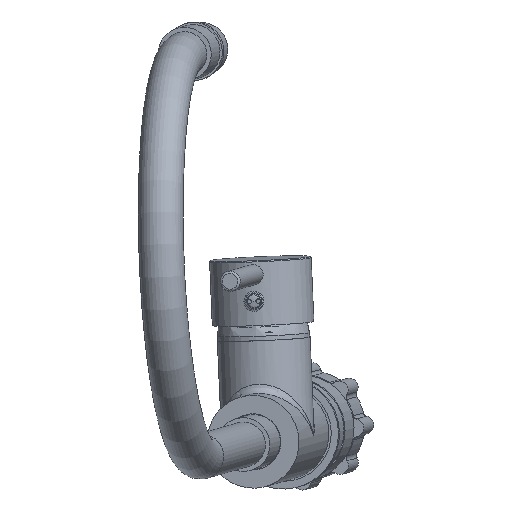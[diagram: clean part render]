
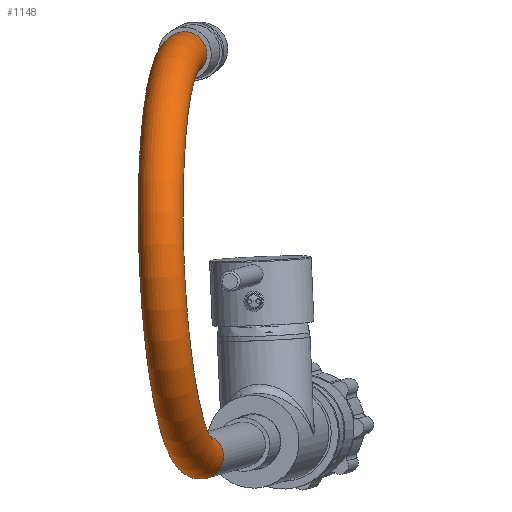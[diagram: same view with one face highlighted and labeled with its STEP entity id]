
A CAD part, top view. The second image highlights one B-rep face of the part: STEP entity #1148.
In plain terms, the highlighted toroidal (fillet/blend) face has major radius 90 mm and minor radius 10 mm.
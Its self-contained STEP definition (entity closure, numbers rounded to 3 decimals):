
#50=TOROIDAL_SURFACE('',#13639,90.,10.);
#628=FACE_BOUND('',#2951,.T.);
#629=FACE_BOUND('',#2952,.T.);
#1148=ADVANCED_FACE('',(#628,#629),#50,.T.);
#2951=EDGE_LOOP('',(#5287));
#2952=EDGE_LOOP('',(#5288));
#4073=CIRCLE('',#13625,10.);
#4080=CIRCLE('',#13637,10.);
#5287=ORIENTED_EDGE('',*,*,#10313,.T.);
#5288=ORIENTED_EDGE('',*,*,#10303,.F.);
#9029=VERTEX_POINT('',#20380);
#9039=VERTEX_POINT('',#20414);
#10303=EDGE_CURVE('',#9029,#9029,#4073,.T.);
#10313=EDGE_CURVE('',#9039,#9039,#4080,.T.);
#13625=AXIS2_PLACEMENT_3D('',#20379,#15156,#15157);
#13637=AXIS2_PLACEMENT_3D('',#20413,#15181,#15182);
#13639=AXIS2_PLACEMENT_3D('',#20416,#15185,#15186);
#15156=DIRECTION('',(0.155,0.046,-0.987));
#15157=DIRECTION('',(0.987,0.035,0.157));
#15181=DIRECTION('',(-0.155,-0.046,0.987));
#15182=DIRECTION('',(-0.987,-0.035,-0.157));
#15185=DIRECTION('',(0.987,0.035,0.157));
#15186=DIRECTION('',(0.155,0.046,-0.987));
#20379=CARTESIAN_POINT('',(-38.841,-10.735,239.74));
#20380=CARTESIAN_POINT('',(-28.972,-10.382,241.311));
#20413=CARTESIAN_POINT('',(-46.417,168.96,246.99));
#20414=CARTESIAN_POINT('',(-56.287,168.607,245.419));
#20416=CARTESIAN_POINT('',(-42.629,79.112,243.365));
